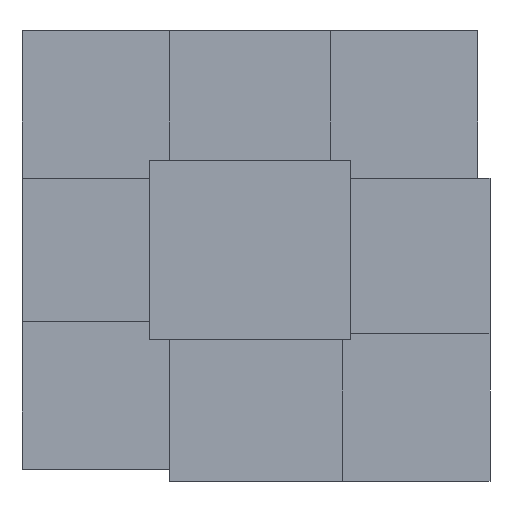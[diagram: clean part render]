
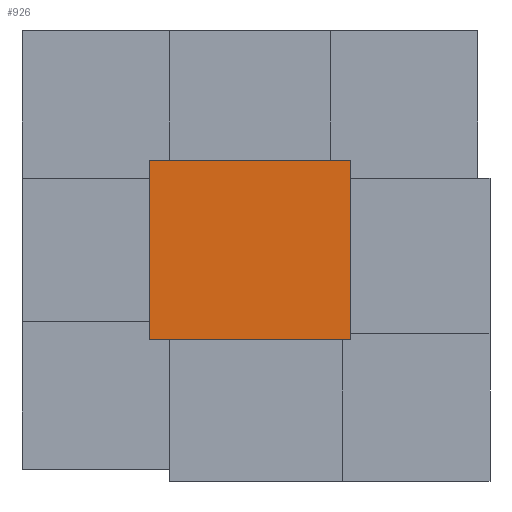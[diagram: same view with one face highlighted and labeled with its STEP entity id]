
A CAD part, left-side view. The second image highlights one B-rep face of the part: STEP entity #926.
In plain terms, the highlighted planar face has unit normal (-1, 0, 0).
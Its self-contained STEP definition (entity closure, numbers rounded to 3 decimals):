
#808=CARTESIAN_POINT('Line Origine',(0.,0.,61.)) ;
#812=CARTESIAN_POINT('Vertex',(0.,0.,0.)) ;
#814=CARTESIAN_POINT('Vertex',(0.,0.,122.)) ;
#883=CARTESIAN_POINT('Vertex',(0.,137.,0.)) ;
#886=CARTESIAN_POINT('Line Origine',(0.,137.,61.)) ;
#890=CARTESIAN_POINT('Vertex',(0.,137.,122.)) ;
#905=CARTESIAN_POINT('Axis2P3D Location',(0.,137.,0.)) ;
#910=CARTESIAN_POINT('Line Origine',(0.,68.5,0.)) ;
#915=CARTESIAN_POINT('Line Origine',(0.,68.5,122.)) ;
#809=DIRECTION('Vector Direction',(0.,0.,1.)) ;
#887=DIRECTION('Vector Direction',(0.,0.,1.)) ;
#906=DIRECTION('Axis2P3D Direction',(-1.,0.,0.)) ;
#907=DIRECTION('Axis2P3D XDirection',(0.,-1.,0.)) ;
#911=DIRECTION('Vector Direction',(0.,-1.,0.)) ;
#916=DIRECTION('Vector Direction',(0.,-1.,0.)) ;
#908=AXIS2_PLACEMENT_3D('Plane Axis2P3D',#905,#906,#907) ;
#921=ORIENTED_EDGE('',*,*,#892,.F.) ;
#922=ORIENTED_EDGE('',*,*,#914,.T.) ;
#923=ORIENTED_EDGE('',*,*,#816,.T.) ;
#924=ORIENTED_EDGE('',*,*,#919,.F.) ;
#810=VECTOR('Line Direction',#809,1.) ;
#888=VECTOR('Line Direction',#887,1.) ;
#912=VECTOR('Line Direction',#911,1.) ;
#917=VECTOR('Line Direction',#916,1.) ;
#926=ADVANCED_FACE('Body.2-molde-superior',(#925),#909,.T.) ;
#816=EDGE_CURVE('',#813,#815,#811,.T.) ;
#892=EDGE_CURVE('',#884,#891,#889,.T.) ;
#914=EDGE_CURVE('',#884,#813,#913,.T.) ;
#919=EDGE_CURVE('',#891,#815,#918,.T.) ;
#920=EDGE_LOOP('',(#921,#922,#923,#924)) ;
#925=FACE_OUTER_BOUND('',#920,.T.) ;
#811=LINE('Line',#808,#810) ;
#889=LINE('Line',#886,#888) ;
#913=LINE('Line',#910,#912) ;
#918=LINE('Line',#915,#917) ;
#909=PLANE('',#908) ;
#813=VERTEX_POINT('',#812) ;
#815=VERTEX_POINT('',#814) ;
#884=VERTEX_POINT('',#883) ;
#891=VERTEX_POINT('',#890) ;
